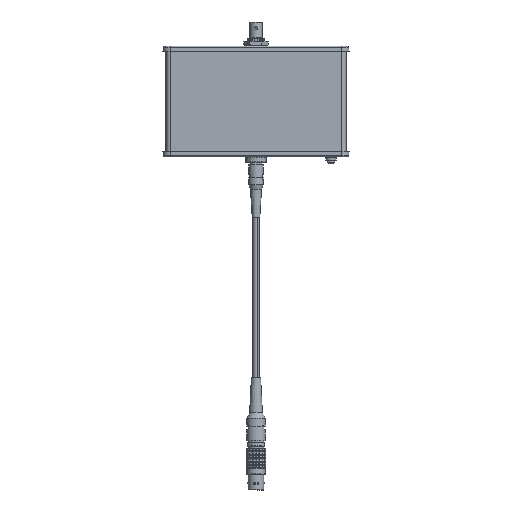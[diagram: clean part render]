
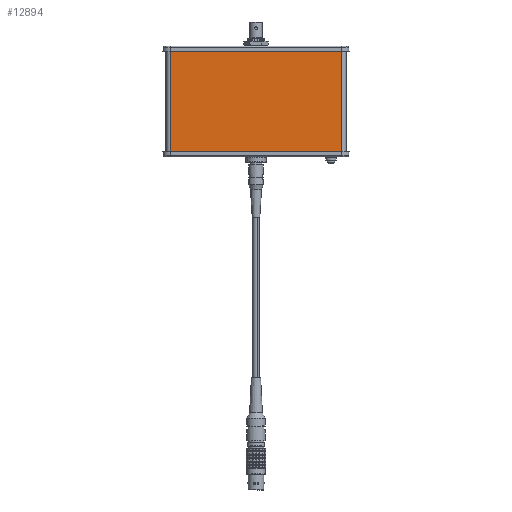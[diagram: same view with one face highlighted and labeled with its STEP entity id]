
A CAD part, front view. The second image highlights one B-rep face of the part: STEP entity #12894.
In plain terms, the highlighted planar face has unit normal (0, -1, 0).
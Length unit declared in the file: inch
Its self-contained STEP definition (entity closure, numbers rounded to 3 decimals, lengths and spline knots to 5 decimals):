
#209 = VECTOR ( 'NONE', #1759, 39.37008 ) ;
#251 = VECTOR ( 'NONE', #7585, 39.37008 ) ;
#1759 = DIRECTION ( 'NONE',  ( 1., 0., 0. ) ) ;
#1806 = FACE_OUTER_BOUND ( 'NONE', #60520, .T. ) ;
#7585 = DIRECTION ( 'NONE',  ( 1., 0., 0. ) ) ;
#8685 = CARTESIAN_POINT ( 'NONE',  ( -2.5765, -0.68898, 1.5748 ) ) ;
#9416 = CARTESIAN_POINT ( 'NONE',  ( 2.5765, -0.68898, -1.5748 ) ) ;
#12894 = ADVANCED_FACE ( 'NONE', ( #1806 ), #32167, .F. ) ;
#16411 = EDGE_CURVE ( 'NONE', #80195, #18926, #55669, .T. ) ;
#18926 = VERTEX_POINT ( 'NONE', #19931 ) ;
#19840 = LINE ( 'NONE', #21783, #53388 ) ;
#19931 = CARTESIAN_POINT ( 'NONE',  ( 2.5765, -0.68898, 1.5748 ) ) ;
#20457 = EDGE_CURVE ( 'NONE', #91972, #80195, #69546, .T. ) ;
#21783 = CARTESIAN_POINT ( 'NONE',  ( -2.5765, -0.68898, -1.5748 ) ) ;
#22054 = AXIS2_PLACEMENT_3D ( 'NONE', #56343, #71695, #49913 ) ;
#24852 = ORIENTED_EDGE ( 'NONE', *, *, #94772, .F. ) ;
#31939 = CARTESIAN_POINT ( 'NONE',  ( 0., -0.68898, -1.5748 ) ) ;
#32167 = PLANE ( 'NONE',  #22054 ) ;
#46318 = EDGE_CURVE ( 'NONE', #65321, #91972, #19840, .T. ) ;
#49913 = DIRECTION ( 'NONE',  ( 0., 0., 1. ) ) ;
#53388 = VECTOR ( 'NONE', #73831, 39.37008 ) ;
#54708 = CARTESIAN_POINT ( 'NONE',  ( 2.5765, -0.68898, 1.5748 ) ) ;
#55190 = DIRECTION ( 'NONE',  ( 0., 0., 1. ) ) ;
#55669 = LINE ( 'NONE', #54708, #68309 ) ;
#56343 = CARTESIAN_POINT ( 'NONE',  ( 0., -0.68898, 1.5748 ) ) ;
#60520 = EDGE_LOOP ( 'NONE', ( #24852, #90897, #97465, #61229 ) ) ;
#61229 = ORIENTED_EDGE ( 'NONE', *, *, #16411, .T. ) ;
#65321 = VERTEX_POINT ( 'NONE', #8685 ) ;
#68309 = VECTOR ( 'NONE', #55190, 39.37008 ) ;
#69315 = CARTESIAN_POINT ( 'NONE',  ( -2.5765, -0.68898, -1.5748 ) ) ;
#69546 = LINE ( 'NONE', #31939, #251 ) ;
#71695 = DIRECTION ( 'NONE',  ( 0., 1., 0. ) ) ;
#73831 = DIRECTION ( 'NONE',  ( 0., 0., -1. ) ) ;
#77673 = LINE ( 'NONE', #85134, #209 ) ;
#80195 = VERTEX_POINT ( 'NONE', #9416 ) ;
#85134 = CARTESIAN_POINT ( 'NONE',  ( 0., -0.68898, 1.5748 ) ) ;
#90897 = ORIENTED_EDGE ( 'NONE', *, *, #46318, .T. ) ;
#91972 = VERTEX_POINT ( 'NONE', #69315 ) ;
#94772 = EDGE_CURVE ( 'NONE', #65321, #18926, #77673, .T. ) ;
#97465 = ORIENTED_EDGE ( 'NONE', *, *, #20457, .T. ) ;
